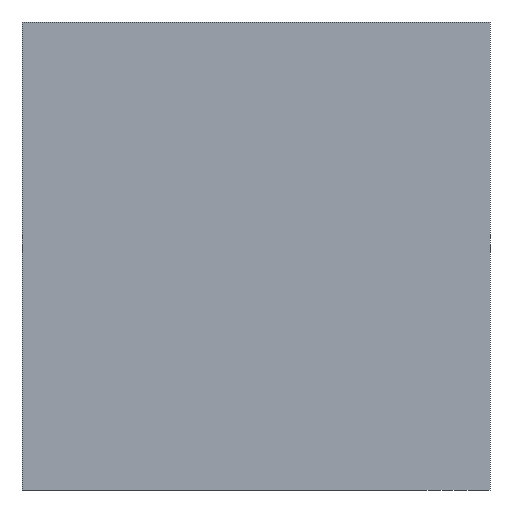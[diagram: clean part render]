
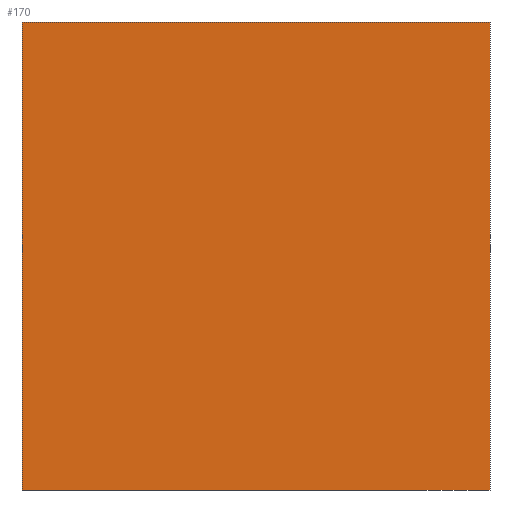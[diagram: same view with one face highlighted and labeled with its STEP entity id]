
A CAD part, left-side view. The second image highlights one B-rep face of the part: STEP entity #170.
In plain terms, the highlighted planar face has unit normal (-1, 0, 0).
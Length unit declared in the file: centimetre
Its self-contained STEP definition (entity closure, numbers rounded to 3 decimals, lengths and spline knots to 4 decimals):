
#27 = CARTESIAN_POINT ( 'NONE',  ( 0., 1000., 1000. ) ) ;
#29 = LINE ( 'NONE', #49, #235 ) ;
#41 = EDGE_CURVE ( 'NONE', #226, #183, #305, .T. ) ;
#49 = CARTESIAN_POINT ( 'NONE',  ( 0., 1000., 0. ) ) ;
#52 = ORIENTED_EDGE ( 'NONE', *, *, #138, .T. ) ;
#62 = DIRECTION ( 'NONE',  ( 0., 0., -1. ) ) ;
#80 = ORIENTED_EDGE ( 'NONE', *, *, #41, .F. ) ;
#118 = DIRECTION ( 'NONE',  ( 0., 0., -1. ) ) ;
#138 = EDGE_CURVE ( 'NONE', #175, #198, #29, .T. ) ;
#141 = DIRECTION ( 'NONE',  ( 0., -1., 0. ) ) ;
#150 = CARTESIAN_POINT ( 'NONE',  ( 0., 1000., 0. ) ) ;
#152 = ORIENTED_EDGE ( 'NONE', *, *, #297, .F. ) ;
#161 = DIRECTION ( 'NONE',  ( 0., 0., -1. ) ) ;
#170 = ADVANCED_FACE ( 'NONE', ( #193 ), #189, .F. ) ;
#171 = CARTESIAN_POINT ( 'NONE',  ( 0., 0., 1000. ) ) ;
#175 = VERTEX_POINT ( 'NONE', #150 ) ;
#177 = EDGE_LOOP ( 'NONE', ( #52, #152, #80, #250 ) ) ;
#183 = VERTEX_POINT ( 'NONE', #171 ) ;
#189 = PLANE ( 'NONE',  #246 ) ;
#193 = FACE_OUTER_BOUND ( 'NONE', #177, .T. ) ;
#198 = VERTEX_POINT ( 'NONE', #273 ) ;
#205 = VECTOR ( 'NONE', #161, 100. ) ;
#222 = LINE ( 'NONE', #252, #281 ) ;
#226 = VERTEX_POINT ( 'NONE', #295 ) ;
#235 = VECTOR ( 'NONE', #141, 100. ) ;
#237 = DIRECTION ( 'NONE',  ( 1., 0., 0. ) ) ;
#246 = AXIS2_PLACEMENT_3D ( 'NONE', #27, #237, #118 ) ;
#248 = LINE ( 'NONE', #300, #205 ) ;
#250 = ORIENTED_EDGE ( 'NONE', *, *, #261, .T. ) ;
#252 = CARTESIAN_POINT ( 'NONE',  ( 0., 0., 1000. ) ) ;
#259 = DIRECTION ( 'NONE',  ( 0., -1., 0. ) ) ;
#261 = EDGE_CURVE ( 'NONE', #226, #175, #248, .T. ) ;
#264 = VECTOR ( 'NONE', #259, 100. ) ;
#273 = CARTESIAN_POINT ( 'NONE',  ( 0., 0., 0. ) ) ;
#281 = VECTOR ( 'NONE', #62, 100. ) ;
#292 = CARTESIAN_POINT ( 'NONE',  ( 0., 1000., 1000. ) ) ;
#295 = CARTESIAN_POINT ( 'NONE',  ( 0., 1000., 1000. ) ) ;
#297 = EDGE_CURVE ( 'NONE', #183, #198, #222, .T. ) ;
#300 = CARTESIAN_POINT ( 'NONE',  ( 0., 1000., 1000. ) ) ;
#305 = LINE ( 'NONE', #292, #264 ) ;
